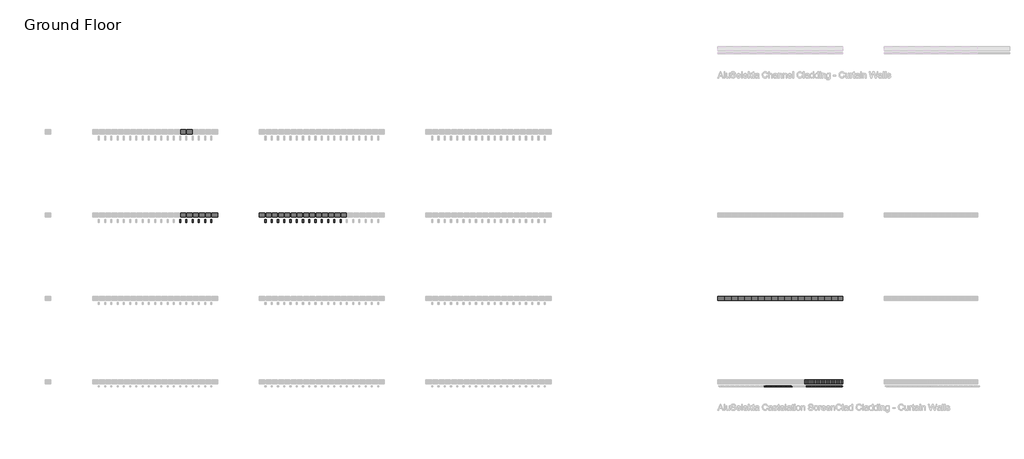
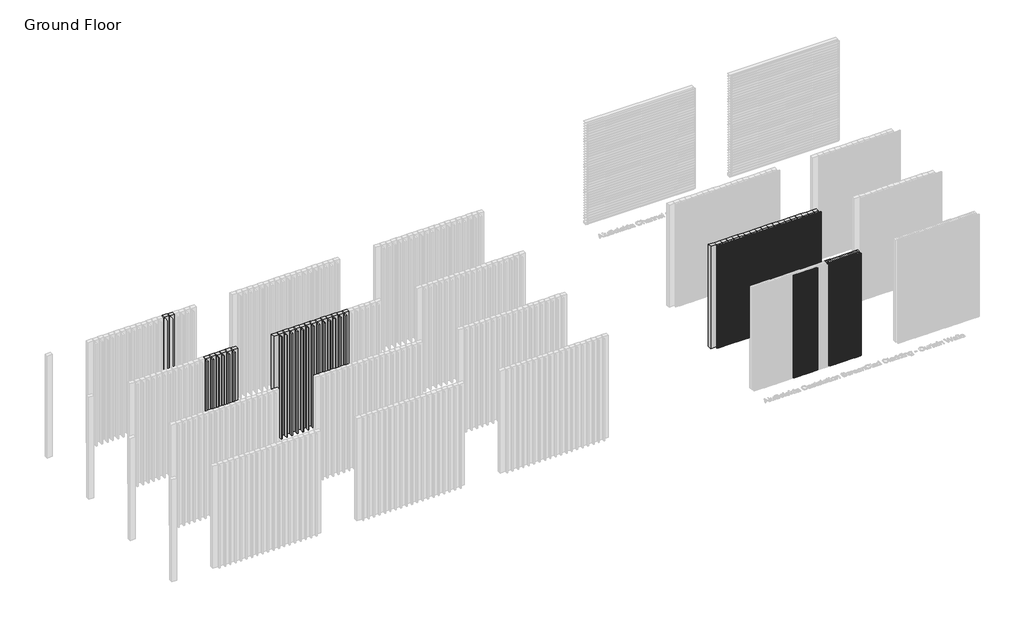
# One storey, part 8 of 350: 76 members, 64 plates.
"""IFC4 building model written with IfcOpenShell, lengths in millimetres."""

from ifc_helpers import new_model, si_unit, origin, place, context, project, spatial, transform, mapped, element, save
from components import rectangular_mullion_4c3290df, rectangular_mullion_b3f0cc74, rectangular_mullion_73ab8564, empty_system_panel_empty_db8e642d, empty_system_panel_empty_1b6afc67, empty_system_panel_empty_4d48d162, empty_system_panel_empty_086c6263, empty_system_panel_empty_a0fcacb3, empty_system_panel_empty_3b645525, empty_system_panel_empty_df7ddcff

model = new_model("IFC4")

# Units and contexts
model_context = context("Model", 3, world=origin())
ifc_project = project(units=[si_unit("LENGTHUNIT", "METRE", prefix="MILLI")], contexts=[model_context])

# Site, building, storey
site = spatial("IfcSite", under=ifc_project)
building = spatial("IfcBuilding", under=site)
storey = spatial("IfcBuildingStorey", under=building, Name="Ground Floor", Elevation=0.0)

# Members
placement = place(None, origin())
rectangular_mullion_shape = rectangular_mullion_4c3290df(model_context)
element("IfcMember", 1, ObjectType="Rectangular Mullion : Cladding_Aluminium_Modinex_AluSelekta_Castelation_ScreenClad_40_AfricanEbony", at=placement, inside=storey, context=model_context, shape_type="MappedRepresentation", body=[
    mapped(rectangular_mullion_shape, transform((31156.4361642, 4968.2978302, 0.0), x_axis=(1.0, 0.0, 0.0), y_axis=(0.0, -1.0, 0.0), z_axis=(0.0, 0.0, -1.0))),
])
element("IfcMember", 2, ObjectType="Rectangular Mullion : Cladding_Aluminium_Modinex_AluSelekta_Castelation_ScreenClad_40_AfricanEbony", at=placement, inside=storey, context=model_context, shape_type="MappedRepresentation", body=[
    mapped(rectangular_mullion_shape, transform((31196.4361642, 4968.2978302, 0.0), x_axis=(1.0, 0.0, 0.0), y_axis=(0.0, -1.0, 0.0), z_axis=(0.0, 0.0, -1.0))),
])
element("IfcMember", 3, ObjectType="Rectangular Mullion : Cladding_Aluminium_Modinex_AluSelekta_Castelation_ScreenClad_40_AfricanEbony", at=placement, inside=storey, context=model_context, shape_type="MappedRepresentation", body=[
    mapped(rectangular_mullion_shape, transform((31236.4361642, 4968.2978302, 0.0), x_axis=(1.0, 0.0, 0.0), y_axis=(0.0, -1.0, 0.0), z_axis=(0.0, 0.0, -1.0))),
])
element("IfcMember", 4, ObjectType="Rectangular Mullion : Cladding_Aluminium_Modinex_AluSelekta_Castelation_ScreenClad_40_AfricanEbony", at=placement, inside=storey, context=model_context, shape_type="MappedRepresentation", body=[
    mapped(rectangular_mullion_shape, transform((31276.4361642, 4968.2978302, 0.0), x_axis=(1.0, 0.0, 0.0), y_axis=(0.0, -1.0, 0.0), z_axis=(0.0, 0.0, -1.0))),
])
element("IfcMember", 5, ObjectType="Rectangular Mullion : Cladding_Aluminium_Modinex_AluSelekta_Castelation_ScreenClad_40_AfricanEbony", at=placement, inside=storey, context=model_context, shape_type="MappedRepresentation", body=[
    mapped(rectangular_mullion_shape, transform((31316.4361642, 4968.2978302, 0.0), x_axis=(1.0, 0.0, 0.0), y_axis=(0.0, -1.0, 0.0), z_axis=(0.0, 0.0, -1.0))),
])
element("IfcMember", 6, ObjectType="Rectangular Mullion : Cladding_Aluminium_Modinex_AluSelekta_Castelation_ScreenClad_40_AfricanEbony", at=placement, inside=storey, context=model_context, shape_type="MappedRepresentation", body=[
    mapped(rectangular_mullion_shape, transform((31356.4361642, 4968.2978302, 0.0), x_axis=(1.0, 0.0, 0.0), y_axis=(0.0, -1.0, 0.0), z_axis=(0.0, 0.0, -1.0))),
])
element("IfcMember", 7, ObjectType="Rectangular Mullion : Cladding_Aluminium_Modinex_AluSelekta_Castelation_ScreenClad_40_AfricanEbony", at=placement, inside=storey, context=model_context, shape_type="MappedRepresentation", body=[
    mapped(rectangular_mullion_shape, transform((31396.4361642, 4968.2978302, 0.0), x_axis=(1.0, 0.0, 0.0), y_axis=(0.0, -1.0, 0.0), z_axis=(0.0, 0.0, -1.0))),
])
element("IfcMember", 8, ObjectType="Rectangular Mullion : Cladding_Aluminium_Modinex_AluSelekta_Castelation_ScreenClad_40_AfricanEbony", at=placement, inside=storey, context=model_context, shape_type="MappedRepresentation", body=[
    mapped(rectangular_mullion_shape, transform((31436.4361642, 4968.2978302, 0.0), x_axis=(1.0, 0.0, 0.0), y_axis=(0.0, -1.0, 0.0), z_axis=(0.0, 0.0, -1.0))),
])
element("IfcMember", 9, ObjectType="Rectangular Mullion : Cladding_Aluminium_Modinex_AluSelekta_Castelation_ScreenClad_40_AfricanEbony", at=placement, inside=storey, context=model_context, shape_type="MappedRepresentation", body=[
    mapped(rectangular_mullion_shape, transform((31476.4361642, 4968.2978302, 0.0), x_axis=(1.0, 0.0, 0.0), y_axis=(0.0, -1.0, 0.0), z_axis=(0.0, 0.0, -1.0))),
])
element("IfcMember", 10, ObjectType="Rectangular Mullion : Cladding_Aluminium_Modinex_AluSelekta_Castelation_ScreenClad_40_AfricanEbony", at=placement, inside=storey, context=model_context, shape_type="MappedRepresentation", body=[
    mapped(rectangular_mullion_shape, transform((31516.4361642, 4968.2978302, 0.0), x_axis=(1.0, 0.0, 0.0), y_axis=(0.0, -1.0, 0.0), z_axis=(0.0, 0.0, -1.0))),
])
element("IfcMember", 11, ObjectType="Rectangular Mullion : Cladding_Aluminium_Modinex_AluSelekta_Castelation_ScreenClad_40_AfricanEbony", at=placement, inside=storey, context=model_context, shape_type="MappedRepresentation", body=[
    mapped(rectangular_mullion_shape, transform((31556.4361642, 4968.2978302, 0.0), x_axis=(1.0, 0.0, 0.0), y_axis=(0.0, -1.0, 0.0), z_axis=(0.0, 0.0, -1.0))),
])
element("IfcMember", 12, ObjectType="Rectangular Mullion : Cladding_Aluminium_Modinex_AluSelekta_Castelation_ScreenClad_40_AfricanEbony", at=placement, inside=storey, context=model_context, shape_type="MappedRepresentation", body=[
    mapped(rectangular_mullion_shape, transform((31596.4361642, 4968.2978302, 0.0), x_axis=(1.0, 0.0, 0.0), y_axis=(0.0, -1.0, 0.0), z_axis=(0.0, 0.0, -1.0))),
])
element("IfcMember", 13, ObjectType="Rectangular Mullion : Cladding_Aluminium_Modinex_AluSelekta_Castelation_ScreenClad_40_AfricanEbony", at=placement, inside=storey, context=model_context, shape_type="MappedRepresentation", body=[
    mapped(rectangular_mullion_shape, transform((31636.4361642, 4968.2978302, 0.0), x_axis=(1.0, 0.0, 0.0), y_axis=(0.0, -1.0, 0.0), z_axis=(0.0, 0.0, -1.0))),
])
element("IfcMember", 14, ObjectType="Rectangular Mullion : Cladding_Aluminium_Modinex_AluSelekta_Castelation_ScreenClad_40_AfricanEbony", at=placement, inside=storey, context=model_context, shape_type="MappedRepresentation", body=[
    mapped(rectangular_mullion_shape, transform((31676.4361642, 4968.2978302, 0.0), x_axis=(1.0, 0.0, 0.0), y_axis=(0.0, -1.0, 0.0), z_axis=(0.0, 0.0, -1.0))),
])
element("IfcMember", 15, ObjectType="Rectangular Mullion : Cladding_Aluminium_Modinex_AluSelekta_Castelation_ScreenClad_40_AfricanEbony", at=placement, inside=storey, context=model_context, shape_type="MappedRepresentation", body=[
    mapped(rectangular_mullion_shape, transform((31716.4361642, 4968.2978302, 0.0), x_axis=(1.0, 0.0, 0.0), y_axis=(0.0, -1.0, 0.0), z_axis=(0.0, 0.0, -1.0))),
])
element("IfcMember", 16, ObjectType="Rectangular Mullion : Cladding_Aluminium_Modinex_AluSelekta_Castelation_ScreenClad_40_AfricanEbony", at=placement, inside=storey, context=model_context, shape_type="MappedRepresentation", body=[
    mapped(rectangular_mullion_shape, transform((31756.4361642, 4968.2978302, 0.0), x_axis=(1.0, 0.0, 0.0), y_axis=(0.0, -1.0, 0.0), z_axis=(0.0, 0.0, -1.0))),
])
element("IfcMember", 17, ObjectType="Rectangular Mullion : Cladding_Aluminium_Modinex_AluSelekta_Castelation_ScreenClad_40_AfricanEbony", at=placement, inside=storey, context=model_context, shape_type="MappedRepresentation", body=[
    mapped(rectangular_mullion_shape, transform((31796.4361642, 4968.2978302, 0.0), x_axis=(1.0, 0.0, 0.0), y_axis=(0.0, -1.0, 0.0), z_axis=(0.0, 0.0, -1.0))),
])
element("IfcMember", 18, ObjectType="Rectangular Mullion : Cladding_Aluminium_Modinex_AluSelekta_Castelation_ScreenClad_40_AfricanEbony", at=placement, inside=storey, context=model_context, shape_type="MappedRepresentation", body=[
    mapped(rectangular_mullion_shape, transform((31836.4361642, 4968.2978302, 0.0), x_axis=(1.0, 0.0, 0.0), y_axis=(0.0, -1.0, 0.0), z_axis=(0.0, 0.0, -1.0))),
])
element("IfcMember", 19, ObjectType="Rectangular Mullion : Cladding_Aluminium_Modinex_AluSelekta_Castelation_ScreenClad_40_AfricanEbony", at=placement, inside=storey, context=model_context, shape_type="MappedRepresentation", body=[
    mapped(rectangular_mullion_shape, transform((31876.4361642, 4968.2978302, 0.0), x_axis=(1.0, 0.0, 0.0), y_axis=(0.0, -1.0, 0.0), z_axis=(0.0, 0.0, -1.0))),
])
element("IfcMember", 20, ObjectType="Rectangular Mullion : Cladding_Aluminium_Modinex_AluSelekta_Castelation_ScreenClad_40_AfricanEbony", at=placement, inside=storey, context=model_context, shape_type="MappedRepresentation", body=[
    mapped(rectangular_mullion_shape, transform((31116.4361642, 4968.2978302, 0.0), x_axis=(1.0, 0.0, 0.0), y_axis=(0.0, -1.0, 0.0), z_axis=(0.0, 0.0, -1.0))),
])
element("IfcMember", 21, ObjectType="Rectangular Mullion : Cladding_Aluminium_Modinex_AluSelekta_Castelation_ScreenClad_40_AfricanEbony", at=placement, inside=storey, context=model_context, shape_type="MappedRepresentation", body=[
    mapped(rectangular_mullion_shape, transform((31076.4361642, 4968.2978302, 0.0), x_axis=(1.0, 0.0, 0.0), y_axis=(0.0, -1.0, 0.0), z_axis=(0.0, 0.0, -1.0))),
])
element("IfcMember", 22, ObjectType="Rectangular Mullion : Cladding_Aluminium_Modinex_AluSelekta_Castelation_ScreenClad_40_AfricanEbony", at=placement, inside=storey, context=model_context, shape_type="MappedRepresentation", body=[
    mapped(rectangular_mullion_shape, transform((31036.4361642, 4968.2978302, 0.0), x_axis=(1.0, 0.0, 0.0), y_axis=(0.0, -1.0, 0.0), z_axis=(0.0, 0.0, -1.0))),
])
element("IfcMember", 23, ObjectType="Rectangular Mullion : Cladding_Aluminium_Modinex_AluSelekta_Castelation_ScreenClad_40_AfricanEbony", at=placement, inside=storey, context=model_context, shape_type="MappedRepresentation", body=[
    mapped(rectangular_mullion_shape, transform((30676.4361642, 4968.2978302, 0.0), x_axis=(1.0, 0.0, 0.0), y_axis=(0.0, -1.0, 0.0), z_axis=(0.0, 0.0, -1.0))),
])
element("IfcMember", 24, ObjectType="Rectangular Mullion : Cladding_Aluminium_Modinex_AluSelekta_Castelation_ScreenClad_40_AfricanEbony", at=placement, inside=storey, context=model_context, shape_type="MappedRepresentation", body=[
    mapped(rectangular_mullion_shape, transform((30636.4361642, 4968.2978302, 0.0), x_axis=(1.0, 0.0, 0.0), y_axis=(0.0, -1.0, 0.0), z_axis=(0.0, 0.0, -1.0))),
])
element("IfcMember", 25, ObjectType="Rectangular Mullion : Cladding_Aluminium_Modinex_AluSelekta_Castelation_ScreenClad_40_AfricanEbony", at=placement, inside=storey, context=model_context, shape_type="MappedRepresentation", body=[
    mapped(rectangular_mullion_shape, transform((30596.4361642, 4968.2978302, 0.0), x_axis=(1.0, 0.0, 0.0), y_axis=(0.0, -1.0, 0.0), z_axis=(0.0, 0.0, -1.0))),
])
element("IfcMember", 26, ObjectType="Rectangular Mullion : Cladding_Aluminium_Modinex_AluSelekta_Castelation_ScreenClad_40_AfricanEbony", at=placement, inside=storey, context=model_context, shape_type="MappedRepresentation", body=[
    mapped(rectangular_mullion_shape, transform((30556.4361642, 4968.2978302, 0.0), x_axis=(1.0, 0.0, 0.0), y_axis=(0.0, -1.0, 0.0), z_axis=(0.0, 0.0, -1.0))),
])
element("IfcMember", 27, ObjectType="Rectangular Mullion : Cladding_Aluminium_Modinex_AluSelekta_Castelation_ScreenClad_40_AfricanEbony", at=placement, inside=storey, context=model_context, shape_type="MappedRepresentation", body=[
    mapped(rectangular_mullion_shape, transform((30516.4361642, 4968.2978302, 0.0), x_axis=(1.0, 0.0, 0.0), y_axis=(0.0, -1.0, 0.0), z_axis=(0.0, 0.0, -1.0))),
])
element("IfcMember", 28, ObjectType="Rectangular Mullion : Cladding_Aluminium_Modinex_AluSelekta_Castelation_ScreenClad_40_AfricanEbony", at=placement, inside=storey, context=model_context, shape_type="MappedRepresentation", body=[
    mapped(rectangular_mullion_shape, transform((30476.4361642, 4968.2978302, 0.0), x_axis=(1.0, 0.0, 0.0), y_axis=(0.0, -1.0, 0.0), z_axis=(0.0, 0.0, -1.0))),
])
element("IfcMember", 29, ObjectType="Rectangular Mullion : Cladding_Aluminium_Modinex_AluSelekta_Castelation_ScreenClad_40_AfricanEbony", at=placement, inside=storey, context=model_context, shape_type="MappedRepresentation", body=[
    mapped(rectangular_mullion_shape, transform((30436.4361642, 4968.2978302, 0.0), x_axis=(1.0, 0.0, 0.0), y_axis=(0.0, -1.0, 0.0), z_axis=(0.0, 0.0, -1.0))),
])
element("IfcMember", 30, ObjectType="Rectangular Mullion : Cladding_Aluminium_Modinex_AluSelekta_Castelation_ScreenClad_40_AfricanEbony", at=placement, inside=storey, context=model_context, shape_type="MappedRepresentation", body=[
    mapped(rectangular_mullion_shape, transform((30396.4361642, 4968.2978302, 0.0), x_axis=(1.0, 0.0, 0.0), y_axis=(0.0, -1.0, 0.0), z_axis=(0.0, 0.0, -1.0))),
])
element("IfcMember", 31, ObjectType="Rectangular Mullion : Cladding_Aluminium_Modinex_AluSelekta_Castelation_ScreenClad_40_AfricanEbony", at=placement, inside=storey, context=model_context, shape_type="MappedRepresentation", body=[
    mapped(rectangular_mullion_shape, transform((30356.4361642, 4968.2978302, 0.0), x_axis=(1.0, 0.0, 0.0), y_axis=(0.0, -1.0, 0.0), z_axis=(0.0, 0.0, -1.0))),
])
element("IfcMember", 32, ObjectType="Rectangular Mullion : Cladding_Aluminium_Modinex_AluSelekta_Castelation_ScreenClad_40_AfricanEbony", at=placement, inside=storey, context=model_context, shape_type="MappedRepresentation", body=[
    mapped(rectangular_mullion_shape, transform((30316.4361642, 4968.2978302, 0.0), x_axis=(1.0, 0.0, 0.0), y_axis=(0.0, -1.0, 0.0), z_axis=(0.0, 0.0, -1.0))),
])
element("IfcMember", 33, ObjectType="Rectangular Mullion : Cladding_Aluminium_Modinex_AluSelekta_Castelation_ScreenClad_40_AfricanEbony", at=placement, inside=storey, context=model_context, shape_type="MappedRepresentation", body=[
    mapped(rectangular_mullion_shape, transform((30276.4361642, 4968.2978302, 0.0), x_axis=(1.0, 0.0, 0.0), y_axis=(0.0, -1.0, 0.0), z_axis=(0.0, 0.0, -1.0))),
])
element("IfcMember", 34, ObjectType="Rectangular Mullion : Cladding_Aluminium_Modinex_AluSelekta_Castelation_ScreenClad_40_AfricanEbony", at=placement, inside=storey, context=model_context, shape_type="MappedRepresentation", body=[
    mapped(rectangular_mullion_shape, transform((30236.4361642, 4968.2978302, 0.0), x_axis=(1.0, 0.0, 0.0), y_axis=(0.0, -1.0, 0.0), z_axis=(0.0, 0.0, -1.0))),
])
element("IfcMember", 35, ObjectType="Rectangular Mullion : Cladding_Aluminium_Modinex_AluSelekta_Castelation_ScreenClad_40_AfricanEbony", at=placement, inside=storey, context=model_context, shape_type="MappedRepresentation", body=[
    mapped(rectangular_mullion_shape, transform((30196.4361642, 4968.2978302, 0.0), x_axis=(1.0, 0.0, 0.0), y_axis=(0.0, -1.0, 0.0), z_axis=(0.0, 0.0, -1.0))),
])
element("IfcMember", 36, ObjectType="Rectangular Mullion : Cladding_Aluminium_Modinex_AluSelekta_Castelation_ScreenClad_40_AfricanEbony", at=placement, inside=storey, context=model_context, shape_type="MappedRepresentation", body=[
    mapped(rectangular_mullion_shape, transform((30156.4361642, 4968.2978302, 0.0), x_axis=(1.0, 0.0, 0.0), y_axis=(0.0, -1.0, 0.0), z_axis=(0.0, 0.0, -1.0))),
])
element("IfcMember", 37, ObjectType="Rectangular Mullion : Cladding_Aluminium_Modinex_AluSelekta_Castelation_ScreenClad_40_AfricanEbony", at=placement, inside=storey, context=model_context, shape_type="MappedRepresentation", body=[
    mapped(rectangular_mullion_shape, transform((30116.4361642, 4968.2978302, 0.0), x_axis=(1.0, 0.0, 0.0), y_axis=(0.0, -1.0, 0.0), z_axis=(0.0, 0.0, -1.0))),
])
element("IfcMember", 38, ObjectType="Rectangular Mullion : Cladding_Aluminium_Modinex_AluSelekta_Castelation_ScreenClad_40_AfricanEbony", at=placement, inside=storey, context=model_context, shape_type="MappedRepresentation", body=[
    mapped(rectangular_mullion_shape, transform((30076.4361642, 4968.2978302, 0.0), x_axis=(1.0, 0.0, 0.0), y_axis=(0.0, -1.0, 0.0), z_axis=(0.0, 0.0, -1.0))),
])
element("IfcMember", 39, ObjectType="Rectangular Mullion : Cladding_Aluminium_Modinex_AluSelekta_Castelation_ScreenClad_40_AfricanEbony", at=placement, inside=storey, context=model_context, shape_type="MappedRepresentation", body=[
    mapped(rectangular_mullion_shape, transform((30036.4361642, 4968.2978302, 0.0), x_axis=(1.0, 0.0, 0.0), y_axis=(0.0, -1.0, 0.0), z_axis=(0.0, 0.0, -1.0))),
])
rectangular_mullion_2_shape = rectangular_mullion_b3f0cc74(model_context)
element("IfcMember", 40, ObjectType="Rectangular Mullion : Batten_Aluminium_Modinex_AluBatten_25x75_SpottedGum", at=placement, inside=storey, context=model_context, shape_type="MappedRepresentation", body=[
    mapped(rectangular_mullion_2_shape, transform((16016.4361642, 8968.2978302, 0.0), x_axis=(1.0, 0.0, 0.0), y_axis=(0.0, -1.0, 0.0), z_axis=(0.0, 0.0, -1.0))),
])
element("IfcMember", 41, ObjectType="Rectangular Mullion : Batten_Aluminium_Modinex_AluBatten_25x75_SpottedGum", at=placement, inside=storey, context=model_context, shape_type="MappedRepresentation", body=[
    mapped(rectangular_mullion_2_shape, transform((16166.4361642, 8968.2978302, 0.0), x_axis=(1.0, 0.0, 0.0), y_axis=(0.0, -1.0, 0.0), z_axis=(0.0, 0.0, -1.0))),
])
element("IfcMember", 42, ObjectType="Rectangular Mullion : Batten_Aluminium_Modinex_AluBatten_25x75_SpottedGum", at=placement, inside=storey, context=model_context, shape_type="MappedRepresentation", body=[
    mapped(rectangular_mullion_2_shape, transform((16316.4361642, 8968.2978302, 0.0), x_axis=(1.0, 0.0, 0.0), y_axis=(0.0, -1.0, 0.0), z_axis=(0.0, 0.0, -1.0))),
])
element("IfcMember", 43, ObjectType="Rectangular Mullion : Batten_Aluminium_Modinex_AluBatten_25x75_SpottedGum", at=placement, inside=storey, context=model_context, shape_type="MappedRepresentation", body=[
    mapped(rectangular_mullion_2_shape, transform((16466.4361642, 8968.2978302, 0.0), x_axis=(1.0, 0.0, 0.0), y_axis=(0.0, -1.0, 0.0), z_axis=(0.0, 0.0, -1.0))),
])
element("IfcMember", 44, ObjectType="Rectangular Mullion : Batten_Aluminium_Modinex_AluBatten_25x75_SpottedGum", at=placement, inside=storey, context=model_context, shape_type="MappedRepresentation", body=[
    mapped(rectangular_mullion_2_shape, transform((16616.4361642, 8968.2978302, 0.0), x_axis=(1.0, 0.0, 0.0), y_axis=(0.0, -1.0, 0.0), z_axis=(0.0, 0.0, -1.0))),
])
element("IfcMember", 45, ObjectType="Rectangular Mullion : Batten_Aluminium_Modinex_AluBatten_25x75_SpottedGum", at=placement, inside=storey, context=model_context, shape_type="MappedRepresentation", body=[
    mapped(rectangular_mullion_2_shape, transform((16766.4361642, 8968.2978302, 0.0), x_axis=(1.0, 0.0, 0.0), y_axis=(0.0, -1.0, 0.0), z_axis=(0.0, 0.0, -1.0))),
])
element("IfcMember", 46, ObjectType="Rectangular Mullion : Batten_Aluminium_Modinex_AluBatten_25x75_TasmanianOak", at=placement, inside=storey, context=model_context, shape_type="MappedRepresentation", body=[
    mapped(rectangular_mullion_2_shape, transform((18066.4361642, 8968.2978302, 0.0), x_axis=(1.0, 0.0, 0.0), y_axis=(0.0, -1.0, 0.0), z_axis=(0.0, 0.0, -1.0))),
])
element("IfcMember", 47, ObjectType="Rectangular Mullion : Batten_Aluminium_Modinex_AluBatten_25x75_TasmanianOak", at=placement, inside=storey, context=model_context, shape_type="MappedRepresentation", body=[
    mapped(rectangular_mullion_2_shape, transform((18216.4361642, 8968.2978302, 0.0), x_axis=(1.0, 0.0, 0.0), y_axis=(0.0, -1.0, 0.0), z_axis=(0.0, 0.0, -1.0))),
])
element("IfcMember", 48, ObjectType="Rectangular Mullion : Batten_Aluminium_Modinex_AluBatten_25x75_TasmanianOak", at=placement, inside=storey, context=model_context, shape_type="MappedRepresentation", body=[
    mapped(rectangular_mullion_2_shape, transform((18366.4361642, 8968.2978302, 0.0), x_axis=(1.0, 0.0, 0.0), y_axis=(0.0, -1.0, 0.0), z_axis=(0.0, 0.0, -1.0))),
])
element("IfcMember", 49, ObjectType="Rectangular Mullion : Batten_Aluminium_Modinex_AluBatten_25x75_TasmanianOak", at=placement, inside=storey, context=model_context, shape_type="MappedRepresentation", body=[
    mapped(rectangular_mullion_2_shape, transform((18516.4361642, 8968.2978302, 0.0), x_axis=(1.0, 0.0, 0.0), y_axis=(0.0, -1.0, 0.0), z_axis=(0.0, 0.0, -1.0))),
])
element("IfcMember", 50, ObjectType="Rectangular Mullion : Batten_Aluminium_Modinex_AluBatten_25x75_TasmanianOak", at=placement, inside=storey, context=model_context, shape_type="MappedRepresentation", body=[
    mapped(rectangular_mullion_2_shape, transform((18666.4361642, 8968.2978302, 0.0), x_axis=(1.0, 0.0, 0.0), y_axis=(0.0, -1.0, 0.0), z_axis=(0.0, 0.0, -1.0))),
])
element("IfcMember", 51, ObjectType="Rectangular Mullion : Batten_Aluminium_Modinex_AluBatten_25x75_TasmanianOak", at=placement, inside=storey, context=model_context, shape_type="MappedRepresentation", body=[
    mapped(rectangular_mullion_2_shape, transform((18816.4361642, 8968.2978302, 0.0), x_axis=(1.0, 0.0, 0.0), y_axis=(0.0, -1.0, 0.0), z_axis=(0.0, 0.0, -1.0))),
])
element("IfcMember", 52, ObjectType="Rectangular Mullion : Batten_Aluminium_Modinex_AluBatten_25x75_TasmanianOak", at=placement, inside=storey, context=model_context, shape_type="MappedRepresentation", body=[
    mapped(rectangular_mullion_2_shape, transform((18966.4361642, 8968.2978302, 0.0), x_axis=(1.0, 0.0, 0.0), y_axis=(0.0, -1.0, 0.0), z_axis=(0.0, 0.0, -1.0))),
])
element("IfcMember", 53, ObjectType="Rectangular Mullion : Batten_Aluminium_Modinex_AluBatten_25x75_TasmanianOak", at=placement, inside=storey, context=model_context, shape_type="MappedRepresentation", body=[
    mapped(rectangular_mullion_2_shape, transform((19116.4361642, 8968.2978302, 0.0), x_axis=(1.0, 0.0, 0.0), y_axis=(0.0, -1.0, 0.0), z_axis=(0.0, 0.0, -1.0))),
])
element("IfcMember", 54, ObjectType="Rectangular Mullion : Batten_Aluminium_Modinex_AluBatten_25x75_TasmanianOak", at=placement, inside=storey, context=model_context, shape_type="MappedRepresentation", body=[
    mapped(rectangular_mullion_2_shape, transform((19266.4361642, 8968.2978302, 0.0), x_axis=(1.0, 0.0, 0.0), y_axis=(0.0, -1.0, 0.0), z_axis=(0.0, 0.0, -1.0))),
])
element("IfcMember", 55, ObjectType="Rectangular Mullion : Batten_Aluminium_Modinex_AluBatten_25x75_TasmanianOak", at=placement, inside=storey, context=model_context, shape_type="MappedRepresentation", body=[
    mapped(rectangular_mullion_2_shape, transform((19416.4361642, 8968.2978302, 0.0), x_axis=(1.0, 0.0, 0.0), y_axis=(0.0, -1.0, 0.0), z_axis=(0.0, 0.0, -1.0))),
])
element("IfcMember", 56, ObjectType="Rectangular Mullion : Batten_Aluminium_Modinex_AluBatten_25x75_TasmanianOak", at=placement, inside=storey, context=model_context, shape_type="MappedRepresentation", body=[
    mapped(rectangular_mullion_2_shape, transform((19566.4361642, 8968.2978302, 0.0), x_axis=(1.0, 0.0, 0.0), y_axis=(0.0, -1.0, 0.0), z_axis=(0.0, 0.0, -1.0))),
])
element("IfcMember", 57, ObjectType="Rectangular Mullion : Batten_Aluminium_Modinex_AluBatten_25x75_TasmanianOak", at=placement, inside=storey, context=model_context, shape_type="MappedRepresentation", body=[
    mapped(rectangular_mullion_2_shape, transform((19716.4361642, 8968.2978302, 0.0), x_axis=(1.0, 0.0, 0.0), y_axis=(0.0, -1.0, 0.0), z_axis=(0.0, 0.0, -1.0))),
])
element("IfcMember", 58, ObjectType="Rectangular Mullion : Batten_Aluminium_Modinex_AluBatten_25x75_TasmanianOak", at=placement, inside=storey, context=model_context, shape_type="MappedRepresentation", body=[
    mapped(rectangular_mullion_2_shape, transform((19866.4361642, 8968.2978302, 0.0), x_axis=(1.0, 0.0, 0.0), y_axis=(0.0, -1.0, 0.0), z_axis=(0.0, 0.0, -1.0))),
])
rectangular_mullion_3_shape = rectangular_mullion_73ab8564(model_context)
element("IfcMember", 59, ObjectType="Rectangular Mullion : Cladding_Aluminium_Modinex_AluSelekta_Castelation_ScreenClad_160_AfricanEbony", at=placement, inside=storey, context=model_context, shape_type="MappedRepresentation", body=[
    mapped(rectangular_mullion_3_shape, transform((29076.4361642, 6968.2978302, 0.0), x_axis=(1.0, 0.0, 0.0), y_axis=(0.0, -1.0, 0.0), z_axis=(0.0, 0.0, -1.0))),
])
element("IfcMember", 60, ObjectType="Rectangular Mullion : Cladding_Aluminium_Modinex_AluSelekta_Castelation_ScreenClad_160_AfricanEbony", at=placement, inside=storey, context=model_context, shape_type="MappedRepresentation", body=[
    mapped(rectangular_mullion_3_shape, transform((29236.4361642, 6968.2978302, 0.0), x_axis=(1.0, 0.0, 0.0), y_axis=(0.0, -1.0, 0.0), z_axis=(0.0, 0.0, -1.0))),
])
element("IfcMember", 61, ObjectType="Rectangular Mullion : Cladding_Aluminium_Modinex_AluSelekta_Castelation_ScreenClad_160_AfricanEbony", at=placement, inside=storey, context=model_context, shape_type="MappedRepresentation", body=[
    mapped(rectangular_mullion_3_shape, transform((29396.4361642, 6968.2978302, 0.0), x_axis=(1.0, 0.0, 0.0), y_axis=(0.0, -1.0, 0.0), z_axis=(0.0, 0.0, -1.0))),
])
element("IfcMember", 62, ObjectType="Rectangular Mullion : Cladding_Aluminium_Modinex_AluSelekta_Castelation_ScreenClad_160_AfricanEbony", at=placement, inside=storey, context=model_context, shape_type="MappedRepresentation", body=[
    mapped(rectangular_mullion_3_shape, transform((29556.4361642, 6968.2978302, 0.0), x_axis=(1.0, 0.0, 0.0), y_axis=(0.0, -1.0, 0.0), z_axis=(0.0, 0.0, -1.0))),
])
element("IfcMember", 63, ObjectType="Rectangular Mullion : Cladding_Aluminium_Modinex_AluSelekta_Castelation_ScreenClad_160_AfricanEbony", at=placement, inside=storey, context=model_context, shape_type="MappedRepresentation", body=[
    mapped(rectangular_mullion_3_shape, transform((29716.4361642, 6968.2978302, 0.0), x_axis=(1.0, 0.0, 0.0), y_axis=(0.0, -1.0, 0.0), z_axis=(0.0, 0.0, -1.0))),
])
element("IfcMember", 64, ObjectType="Rectangular Mullion : Cladding_Aluminium_Modinex_AluSelekta_Castelation_ScreenClad_160_AfricanEbony", at=placement, inside=storey, context=model_context, shape_type="MappedRepresentation", body=[
    mapped(rectangular_mullion_3_shape, transform((29876.4361642, 6968.2978302, 0.0), x_axis=(1.0, 0.0, 0.0), y_axis=(0.0, -1.0, 0.0), z_axis=(0.0, 0.0, -1.0))),
])
element("IfcMember", 65, ObjectType="Rectangular Mullion : Cladding_Aluminium_Modinex_AluSelekta_Castelation_ScreenClad_160_AfricanEbony", at=placement, inside=storey, context=model_context, shape_type="MappedRepresentation", body=[
    mapped(rectangular_mullion_3_shape, transform((30036.4361642, 6968.2978302, 0.0), x_axis=(1.0, 0.0, 0.0), y_axis=(0.0, -1.0, 0.0), z_axis=(0.0, 0.0, -1.0))),
])
element("IfcMember", 66, ObjectType="Rectangular Mullion : Cladding_Aluminium_Modinex_AluSelekta_Castelation_ScreenClad_160_AfricanEbony", at=placement, inside=storey, context=model_context, shape_type="MappedRepresentation", body=[
    mapped(rectangular_mullion_3_shape, transform((30196.4361642, 6968.2978302, 0.0), x_axis=(1.0, 0.0, 0.0), y_axis=(0.0, -1.0, 0.0), z_axis=(0.0, 0.0, -1.0))),
])
element("IfcMember", 67, ObjectType="Rectangular Mullion : Cladding_Aluminium_Modinex_AluSelekta_Castelation_ScreenClad_160_AfricanEbony", at=placement, inside=storey, context=model_context, shape_type="MappedRepresentation", body=[
    mapped(rectangular_mullion_3_shape, transform((30356.4361642, 6968.2978302, 0.0), x_axis=(1.0, 0.0, 0.0), y_axis=(0.0, -1.0, 0.0), z_axis=(0.0, 0.0, -1.0))),
])
element("IfcMember", 68, ObjectType="Rectangular Mullion : Cladding_Aluminium_Modinex_AluSelekta_Castelation_ScreenClad_160_AfricanEbony", at=placement, inside=storey, context=model_context, shape_type="MappedRepresentation", body=[
    mapped(rectangular_mullion_3_shape, transform((30516.4361642, 6968.2978302, 0.0), x_axis=(1.0, 0.0, 0.0), y_axis=(0.0, -1.0, 0.0), z_axis=(0.0, 0.0, -1.0))),
])
element("IfcMember", 69, ObjectType="Rectangular Mullion : Cladding_Aluminium_Modinex_AluSelekta_Castelation_ScreenClad_160_AfricanEbony", at=placement, inside=storey, context=model_context, shape_type="MappedRepresentation", body=[
    mapped(rectangular_mullion_3_shape, transform((30676.4361642, 6968.2978302, 0.0), x_axis=(1.0, 0.0, 0.0), y_axis=(0.0, -1.0, 0.0), z_axis=(0.0, 0.0, -1.0))),
])
element("IfcMember", 70, ObjectType="Rectangular Mullion : Cladding_Aluminium_Modinex_AluSelekta_Castelation_ScreenClad_160_AfricanEbony", at=placement, inside=storey, context=model_context, shape_type="MappedRepresentation", body=[
    mapped(rectangular_mullion_3_shape, transform((30836.4361642, 6968.2978302, 0.0), x_axis=(1.0, 0.0, 0.0), y_axis=(0.0, -1.0, 0.0), z_axis=(0.0, 0.0, -1.0))),
])
element("IfcMember", 71, ObjectType="Rectangular Mullion : Cladding_Aluminium_Modinex_AluSelekta_Castelation_ScreenClad_160_AfricanEbony", at=placement, inside=storey, context=model_context, shape_type="MappedRepresentation", body=[
    mapped(rectangular_mullion_3_shape, transform((30996.4361642, 6968.2978302, 0.0), x_axis=(1.0, 0.0, 0.0), y_axis=(0.0, -1.0, 0.0), z_axis=(0.0, 0.0, -1.0))),
])
element("IfcMember", 72, ObjectType="Rectangular Mullion : Cladding_Aluminium_Modinex_AluSelekta_Castelation_ScreenClad_160_AfricanEbony", at=placement, inside=storey, context=model_context, shape_type="MappedRepresentation", body=[
    mapped(rectangular_mullion_3_shape, transform((31156.4361642, 6968.2978302, 0.0), x_axis=(1.0, 0.0, 0.0), y_axis=(0.0, -1.0, 0.0), z_axis=(0.0, 0.0, -1.0))),
])
element("IfcMember", 73, ObjectType="Rectangular Mullion : Cladding_Aluminium_Modinex_AluSelekta_Castelation_ScreenClad_160_AfricanEbony", at=placement, inside=storey, context=model_context, shape_type="MappedRepresentation", body=[
    mapped(rectangular_mullion_3_shape, transform((31316.4361642, 6968.2978302, 0.0), x_axis=(1.0, 0.0, 0.0), y_axis=(0.0, -1.0, 0.0), z_axis=(0.0, 0.0, -1.0))),
])
element("IfcMember", 74, ObjectType="Rectangular Mullion : Cladding_Aluminium_Modinex_AluSelekta_Castelation_ScreenClad_160_AfricanEbony", at=placement, inside=storey, context=model_context, shape_type="MappedRepresentation", body=[
    mapped(rectangular_mullion_3_shape, transform((31476.4361642, 6968.2978302, 0.0), x_axis=(1.0, 0.0, 0.0), y_axis=(0.0, -1.0, 0.0), z_axis=(0.0, 0.0, -1.0))),
])
element("IfcMember", 75, ObjectType="Rectangular Mullion : Cladding_Aluminium_Modinex_AluSelekta_Castelation_ScreenClad_160_AfricanEbony", at=placement, inside=storey, context=model_context, shape_type="MappedRepresentation", body=[
    mapped(rectangular_mullion_3_shape, transform((31636.4361642, 6968.2978302, 0.0), x_axis=(1.0, 0.0, 0.0), y_axis=(0.0, -1.0, 0.0), z_axis=(0.0, 0.0, -1.0))),
])
element("IfcMember", 76, ObjectType="Rectangular Mullion : Cladding_Aluminium_Modinex_AluSelekta_Castelation_ScreenClad_160_AfricanEbony", at=placement, inside=storey, context=model_context, shape_type="MappedRepresentation", body=[
    mapped(rectangular_mullion_3_shape, transform((31796.4361642, 6968.2978302, 0.0), x_axis=(1.0, 0.0, 0.0), y_axis=(0.0, -1.0, 0.0), z_axis=(0.0, 0.0, -1.0))),
])

# Plates
empty_system_panel_empty_shape = empty_system_panel_empty_db8e642d(model_context)
element("IfcPlate", 77, ObjectType="Empty System Panel : Empty", at=placement, inside=storey, context=model_context, shape_type="MappedRepresentation", body=[
    mapped(empty_system_panel_empty_shape, transform((17985.1861641, 8968.2978302, 0.0), x_axis=(1.0, 0.0, 0.0), y_axis=(0.0, 1.0, 0.0), z_axis=(0.0, 0.0, 1.0))),
])
empty_system_panel_empty_2_shape = empty_system_panel_empty_1b6afc67(model_context)
element("IfcPlate", 78, ObjectType="Empty System Panel : Empty", at=placement, inside=storey, context=model_context, shape_type="MappedRepresentation", body=[
    mapped(empty_system_panel_empty_2_shape, transform((16091.4361642, 8968.2978302, 0.0), x_axis=(1.0, 0.0, 0.0), y_axis=(0.0, 1.0, 0.0), z_axis=(0.0, 0.0, 1.0))),
])
element("IfcPlate", 79, ObjectType="Empty System Panel : Empty", at=placement, inside=storey, context=model_context, shape_type="MappedRepresentation", body=[
    mapped(empty_system_panel_empty_2_shape, transform((16241.4361642, 8968.2978302, 0.0), x_axis=(1.0, 0.0, 0.0), y_axis=(0.0, 1.0, 0.0), z_axis=(0.0, 0.0, 1.0))),
])
element("IfcPlate", 80, ObjectType="Empty System Panel : Empty", at=placement, inside=storey, context=model_context, shape_type="MappedRepresentation", body=[
    mapped(empty_system_panel_empty_2_shape, transform((16391.4361642, 8968.2978302, 0.0), x_axis=(1.0, 0.0, 0.0), y_axis=(0.0, 1.0, 0.0), z_axis=(0.0, 0.0, 1.0))),
])
element("IfcPlate", 81, ObjectType="Empty System Panel : Empty", at=placement, inside=storey, context=model_context, shape_type="MappedRepresentation", body=[
    mapped(empty_system_panel_empty_2_shape, transform((16541.4361642, 8968.2978302, 0.0), x_axis=(1.0, 0.0, 0.0), y_axis=(0.0, 1.0, 0.0), z_axis=(0.0, 0.0, 1.0))),
])
element("IfcPlate", 82, ObjectType="Empty System Panel : Empty", at=placement, inside=storey, context=model_context, shape_type="MappedRepresentation", body=[
    mapped(empty_system_panel_empty_2_shape, transform((16691.4361642, 8968.2978302, 0.0), x_axis=(1.0, 0.0, 0.0), y_axis=(0.0, 1.0, 0.0), z_axis=(0.0, 0.0, 1.0))),
])
element("IfcPlate", 83, ObjectType="Empty System Panel : Empty", at=placement, inside=storey, context=model_context, shape_type="MappedRepresentation", body=[
    mapped(empty_system_panel_empty_2_shape, transform((18141.4361642, 8968.2978302, 0.0), x_axis=(1.0, 0.0, 0.0), y_axis=(0.0, 1.0, 0.0), z_axis=(0.0, 0.0, 1.0))),
])
element("IfcPlate", 84, ObjectType="Empty System Panel : Empty", at=placement, inside=storey, context=model_context, shape_type="MappedRepresentation", body=[
    mapped(empty_system_panel_empty_2_shape, transform((18291.4361642, 8968.2978302, 0.0), x_axis=(1.0, 0.0, 0.0), y_axis=(0.0, 1.0, 0.0), z_axis=(0.0, 0.0, 1.0))),
])
element("IfcPlate", 85, ObjectType="Empty System Panel : Empty", at=placement, inside=storey, context=model_context, shape_type="MappedRepresentation", body=[
    mapped(empty_system_panel_empty_2_shape, transform((18441.4361642, 8968.2978302, 0.0), x_axis=(1.0, 0.0, 0.0), y_axis=(0.0, 1.0, 0.0), z_axis=(0.0, 0.0, 1.0))),
])
element("IfcPlate", 86, ObjectType="Empty System Panel : Empty", at=placement, inside=storey, context=model_context, shape_type="MappedRepresentation", body=[
    mapped(empty_system_panel_empty_2_shape, transform((18591.4361642, 8968.2978302, 0.0), x_axis=(1.0, 0.0, 0.0), y_axis=(0.0, 1.0, 0.0), z_axis=(0.0, 0.0, 1.0))),
])
element("IfcPlate", 87, ObjectType="Empty System Panel : Empty", at=placement, inside=storey, context=model_context, shape_type="MappedRepresentation", body=[
    mapped(empty_system_panel_empty_2_shape, transform((18741.4361642, 8968.2978302, 0.0), x_axis=(1.0, 0.0, 0.0), y_axis=(0.0, 1.0, 0.0), z_axis=(0.0, 0.0, 1.0))),
])
element("IfcPlate", 88, ObjectType="Empty System Panel : Empty", at=placement, inside=storey, context=model_context, shape_type="MappedRepresentation", body=[
    mapped(empty_system_panel_empty_2_shape, transform((18891.4361642, 8968.2978302, 0.0), x_axis=(1.0, 0.0, 0.0), y_axis=(0.0, 1.0, 0.0), z_axis=(0.0, 0.0, 1.0))),
])
element("IfcPlate", 89, ObjectType="Empty System Panel : Empty", at=placement, inside=storey, context=model_context, shape_type="MappedRepresentation", body=[
    mapped(empty_system_panel_empty_2_shape, transform((19041.4361642, 8968.2978302, 0.0), x_axis=(1.0, 0.0, 0.0), y_axis=(0.0, 1.0, 0.0), z_axis=(0.0, 0.0, 1.0))),
])
element("IfcPlate", 90, ObjectType="Empty System Panel : Empty", at=placement, inside=storey, context=model_context, shape_type="MappedRepresentation", body=[
    mapped(empty_system_panel_empty_2_shape, transform((19191.4361642, 8968.2978302, 0.0), x_axis=(1.0, 0.0, 0.0), y_axis=(0.0, 1.0, 0.0), z_axis=(0.0, 0.0, 1.0))),
])
element("IfcPlate", 91, ObjectType="Empty System Panel : Empty", at=placement, inside=storey, context=model_context, shape_type="MappedRepresentation", body=[
    mapped(empty_system_panel_empty_2_shape, transform((19341.4361642, 8968.2978302, 0.0), x_axis=(1.0, 0.0, 0.0), y_axis=(0.0, 1.0, 0.0), z_axis=(0.0, 0.0, 1.0))),
])
element("IfcPlate", 92, ObjectType="Empty System Panel : Empty", at=placement, inside=storey, context=model_context, shape_type="MappedRepresentation", body=[
    mapped(empty_system_panel_empty_2_shape, transform((19491.4361642, 8968.2978302, 0.0), x_axis=(1.0, 0.0, 0.0), y_axis=(0.0, 1.0, 0.0), z_axis=(0.0, 0.0, 1.0))),
])
element("IfcPlate", 93, ObjectType="Empty System Panel : Empty", at=placement, inside=storey, context=model_context, shape_type="MappedRepresentation", body=[
    mapped(empty_system_panel_empty_2_shape, transform((19641.4361642, 8968.2978302, 0.0), x_axis=(1.0, 0.0, 0.0), y_axis=(0.0, 1.0, 0.0), z_axis=(0.0, 0.0, 1.0))),
])
element("IfcPlate", 94, ObjectType="Empty System Panel : Empty", at=placement, inside=storey, context=model_context, shape_type="MappedRepresentation", body=[
    mapped(empty_system_panel_empty_2_shape, transform((19791.4361642, 8968.2978302, 0.0), x_axis=(1.0, 0.0, 0.0), y_axis=(0.0, 1.0, 0.0), z_axis=(0.0, 0.0, 1.0))),
])
element("IfcPlate", 95, ObjectType="Empty System Panel : Empty", at=placement, inside=storey, context=model_context, shape_type="MappedRepresentation", body=[
    mapped(empty_system_panel_empty_2_shape, transform((19941.4361642, 8968.2978302, 0.0), x_axis=(1.0, 0.0, 0.0), y_axis=(0.0, 1.0, 0.0), z_axis=(0.0, 0.0, 1.0))),
])
element("IfcPlate", 96, ObjectType="Empty System Panel : Empty", at=placement, inside=storey, context=model_context, shape_type="MappedRepresentation", body=[
    mapped(empty_system_panel_empty_2_shape, transform((16091.4361642, 10968.2978302, 0.0), x_axis=(1.0, 0.0, 0.0), y_axis=(0.0, 1.0, 0.0), z_axis=(0.0, 0.0, 1.0))),
])
element("IfcPlate", 97, ObjectType="Empty System Panel : Empty", at=placement, inside=storey, context=model_context, shape_type="MappedRepresentation", body=[
    mapped(empty_system_panel_empty_2_shape, transform((16241.4361642, 10968.2978302, 0.0), x_axis=(1.0, 0.0, 0.0), y_axis=(0.0, 1.0, 0.0), z_axis=(0.0, 0.0, 1.0))),
])
empty_system_panel_empty_3_shape = empty_system_panel_empty_4d48d162(model_context)
element("IfcPlate", 98, ObjectType="Empty System Panel : Empty", at=placement, inside=storey, context=model_context, shape_type="MappedRepresentation", body=[
    mapped(empty_system_panel_empty_3_shape, transform((16847.6861641, 8968.2978302, 0.0), x_axis=(1.0, 0.0, 0.0), y_axis=(0.0, 1.0, 0.0), z_axis=(0.0, 0.0, 1.0))),
])
empty_system_panel_empty_4_shape = empty_system_panel_empty_086c6263(model_context)
element("IfcPlate", 99, ObjectType="Empty System Panel : Empty", at=placement, inside=storey, context=model_context, shape_type="MappedRepresentation", body=[
    mapped(empty_system_panel_empty_4_shape, transform((31176.4361642, 4968.2978302, 0.0), x_axis=(1.0, 0.0, 0.0), y_axis=(0.0, 1.0, 0.0), z_axis=(0.0, 0.0, 1.0))),
])
element("IfcPlate", 100, ObjectType="Empty System Panel : Empty", at=placement, inside=storey, context=model_context, shape_type="MappedRepresentation", body=[
    mapped(empty_system_panel_empty_4_shape, transform((31216.4361642, 4968.2978302, 0.0), x_axis=(1.0, 0.0, 0.0), y_axis=(0.0, 1.0, 0.0), z_axis=(0.0, 0.0, 1.0))),
])
element("IfcPlate", 101, ObjectType="Empty System Panel : Empty", at=placement, inside=storey, context=model_context, shape_type="MappedRepresentation", body=[
    mapped(empty_system_panel_empty_4_shape, transform((31256.4361642, 4968.2978302, 0.0), x_axis=(1.0, 0.0, 0.0), y_axis=(0.0, 1.0, 0.0), z_axis=(0.0, 0.0, 1.0))),
])
element("IfcPlate", 102, ObjectType="Empty System Panel : Empty", at=placement, inside=storey, context=model_context, shape_type="MappedRepresentation", body=[
    mapped(empty_system_panel_empty_4_shape, transform((31296.4361642, 4968.2978302, 0.0), x_axis=(1.0, 0.0, 0.0), y_axis=(0.0, 1.0, 0.0), z_axis=(0.0, 0.0, 1.0))),
])
element("IfcPlate", 103, ObjectType="Empty System Panel : Empty", at=placement, inside=storey, context=model_context, shape_type="MappedRepresentation", body=[
    mapped(empty_system_panel_empty_4_shape, transform((31336.4361642, 4968.2978302, 0.0), x_axis=(1.0, 0.0, 0.0), y_axis=(0.0, 1.0, 0.0), z_axis=(0.0, 0.0, 1.0))),
])
element("IfcPlate", 104, ObjectType="Empty System Panel : Empty", at=placement, inside=storey, context=model_context, shape_type="MappedRepresentation", body=[
    mapped(empty_system_panel_empty_4_shape, transform((31376.4361642, 4968.2978302, 0.0), x_axis=(1.0, 0.0, 0.0), y_axis=(0.0, 1.0, 0.0), z_axis=(0.0, 0.0, 1.0))),
])
element("IfcPlate", 105, ObjectType="Empty System Panel : Empty", at=placement, inside=storey, context=model_context, shape_type="MappedRepresentation", body=[
    mapped(empty_system_panel_empty_4_shape, transform((31416.4361642, 4968.2978302, 0.0), x_axis=(1.0, 0.0, 0.0), y_axis=(0.0, 1.0, 0.0), z_axis=(0.0, 0.0, 1.0))),
])
element("IfcPlate", 106, ObjectType="Empty System Panel : Empty", at=placement, inside=storey, context=model_context, shape_type="MappedRepresentation", body=[
    mapped(empty_system_panel_empty_4_shape, transform((31456.4361642, 4968.2978302, 0.0), x_axis=(1.0, 0.0, 0.0), y_axis=(0.0, 1.0, 0.0), z_axis=(0.0, 0.0, 1.0))),
])
element("IfcPlate", 107, ObjectType="Empty System Panel : Empty", at=placement, inside=storey, context=model_context, shape_type="MappedRepresentation", body=[
    mapped(empty_system_panel_empty_4_shape, transform((31496.4361642, 4968.2978302, 0.0), x_axis=(1.0, 0.0, 0.0), y_axis=(0.0, 1.0, 0.0), z_axis=(0.0, 0.0, 1.0))),
])
element("IfcPlate", 108, ObjectType="Empty System Panel : Empty", at=placement, inside=storey, context=model_context, shape_type="MappedRepresentation", body=[
    mapped(empty_system_panel_empty_4_shape, transform((31536.4361642, 4968.2978302, 0.0), x_axis=(1.0, 0.0, 0.0), y_axis=(0.0, 1.0, 0.0), z_axis=(0.0, 0.0, 1.0))),
])
element("IfcPlate", 109, ObjectType="Empty System Panel : Empty", at=placement, inside=storey, context=model_context, shape_type="MappedRepresentation", body=[
    mapped(empty_system_panel_empty_4_shape, transform((31576.4361642, 4968.2978302, 0.0), x_axis=(1.0, 0.0, 0.0), y_axis=(0.0, 1.0, 0.0), z_axis=(0.0, 0.0, 1.0))),
])
element("IfcPlate", 110, ObjectType="Empty System Panel : Empty", at=placement, inside=storey, context=model_context, shape_type="MappedRepresentation", body=[
    mapped(empty_system_panel_empty_4_shape, transform((31616.4361642, 4968.2978302, 0.0), x_axis=(1.0, 0.0, 0.0), y_axis=(0.0, 1.0, 0.0), z_axis=(0.0, 0.0, 1.0))),
])
element("IfcPlate", 111, ObjectType="Empty System Panel : Empty", at=placement, inside=storey, context=model_context, shape_type="MappedRepresentation", body=[
    mapped(empty_system_panel_empty_4_shape, transform((31656.4361642, 4968.2978302, 0.0), x_axis=(1.0, 0.0, 0.0), y_axis=(0.0, 1.0, 0.0), z_axis=(0.0, 0.0, 1.0))),
])
element("IfcPlate", 112, ObjectType="Empty System Panel : Empty", at=placement, inside=storey, context=model_context, shape_type="MappedRepresentation", body=[
    mapped(empty_system_panel_empty_4_shape, transform((31696.4361642, 4968.2978302, 0.0), x_axis=(1.0, 0.0, 0.0), y_axis=(0.0, 1.0, 0.0), z_axis=(0.0, 0.0, 1.0))),
])
element("IfcPlate", 113, ObjectType="Empty System Panel : Empty", at=placement, inside=storey, context=model_context, shape_type="MappedRepresentation", body=[
    mapped(empty_system_panel_empty_4_shape, transform((31736.4361642, 4968.2978302, 0.0), x_axis=(1.0, 0.0, 0.0), y_axis=(0.0, 1.0, 0.0), z_axis=(0.0, 0.0, 1.0))),
])
element("IfcPlate", 114, ObjectType="Empty System Panel : Empty", at=placement, inside=storey, context=model_context, shape_type="MappedRepresentation", body=[
    mapped(empty_system_panel_empty_4_shape, transform((31776.4361642, 4968.2978302, 0.0), x_axis=(1.0, 0.0, 0.0), y_axis=(0.0, 1.0, 0.0), z_axis=(0.0, 0.0, 1.0))),
])
element("IfcPlate", 115, ObjectType="Empty System Panel : Empty", at=placement, inside=storey, context=model_context, shape_type="MappedRepresentation", body=[
    mapped(empty_system_panel_empty_4_shape, transform((31816.4361642, 4968.2978302, 0.0), x_axis=(1.0, 0.0, 0.0), y_axis=(0.0, 1.0, 0.0), z_axis=(0.0, 0.0, 1.0))),
])
element("IfcPlate", 116, ObjectType="Empty System Panel : Empty", at=placement, inside=storey, context=model_context, shape_type="MappedRepresentation", body=[
    mapped(empty_system_panel_empty_4_shape, transform((31856.4361642, 4968.2978302, 0.0), x_axis=(1.0, 0.0, 0.0), y_axis=(0.0, 1.0, 0.0), z_axis=(0.0, 0.0, 1.0))),
])
element("IfcPlate", 117, ObjectType="Empty System Panel : Empty", at=placement, inside=storey, context=model_context, shape_type="MappedRepresentation", body=[
    mapped(empty_system_panel_empty_4_shape, transform((31136.4361642, 4968.2978302, 0.0), x_axis=(1.0, 0.0, 0.0), y_axis=(0.0, 1.0, 0.0), z_axis=(0.0, 0.0, 1.0))),
])
element("IfcPlate", 118, ObjectType="Empty System Panel : Empty", at=placement, inside=storey, context=model_context, shape_type="MappedRepresentation", body=[
    mapped(empty_system_panel_empty_4_shape, transform((31096.4361642, 4968.2978302, 0.0), x_axis=(1.0, 0.0, 0.0), y_axis=(0.0, 1.0, 0.0), z_axis=(0.0, 0.0, 1.0))),
])
element("IfcPlate", 119, ObjectType="Empty System Panel : Empty", at=placement, inside=storey, context=model_context, shape_type="MappedRepresentation", body=[
    mapped(empty_system_panel_empty_4_shape, transform((31056.4361642, 4968.2978302, 0.0), x_axis=(1.0, 0.0, 0.0), y_axis=(0.0, 1.0, 0.0), z_axis=(0.0, 0.0, 1.0))),
])
element("IfcPlate", 120, ObjectType="Empty System Panel : Empty", at=placement, inside=storey, context=model_context, shape_type="MappedRepresentation", body=[
    mapped(empty_system_panel_empty_4_shape, transform((31016.4361642, 4968.2978302, 0.0), x_axis=(1.0, 0.0, 0.0), y_axis=(0.0, 1.0, 0.0), z_axis=(0.0, 0.0, 1.0))),
])
empty_system_panel_empty_5_shape = empty_system_panel_empty_a0fcacb3(model_context)
element("IfcPlate", 121, ObjectType="Empty System Panel : Empty", at=placement, inside=storey, context=model_context, shape_type="MappedRepresentation", body=[
    mapped(empty_system_panel_empty_5_shape, transform((31896.4361641, 4968.2978302, 0.0), x_axis=(1.0, 0.0, 0.0), y_axis=(0.0, 1.0, 0.0), z_axis=(0.0, 0.0, 1.0))),
])
empty_system_panel_empty_6_shape = empty_system_panel_empty_3b645525(model_context)
element("IfcPlate", 122, ObjectType="Empty System Panel : Empty", at=placement, inside=storey, context=model_context, shape_type="MappedRepresentation", body=[
    mapped(empty_system_panel_empty_6_shape, transform((28996.4361641, 6968.2978302, 0.0), x_axis=(1.0, 0.0, 0.0), y_axis=(0.0, 1.0, 0.0), z_axis=(0.0, 0.0, 1.0))),
])
element("IfcPlate", 123, ObjectType="Empty System Panel : Empty", at=placement, inside=storey, context=model_context, shape_type="MappedRepresentation", body=[
    mapped(empty_system_panel_empty_6_shape, transform((29156.4361642, 6968.2978302, 0.0), x_axis=(1.0, 0.0, 0.0), y_axis=(0.0, 1.0, 0.0), z_axis=(0.0, 0.0, 1.0))),
])
element("IfcPlate", 124, ObjectType="Empty System Panel : Empty", at=placement, inside=storey, context=model_context, shape_type="MappedRepresentation", body=[
    mapped(empty_system_panel_empty_6_shape, transform((29316.4361642, 6968.2978302, 0.0), x_axis=(1.0, 0.0, 0.0), y_axis=(0.0, 1.0, 0.0), z_axis=(0.0, 0.0, 1.0))),
])
element("IfcPlate", 125, ObjectType="Empty System Panel : Empty", at=placement, inside=storey, context=model_context, shape_type="MappedRepresentation", body=[
    mapped(empty_system_panel_empty_6_shape, transform((29476.4361642, 6968.2978302, 0.0), x_axis=(1.0, 0.0, 0.0), y_axis=(0.0, 1.0, 0.0), z_axis=(0.0, 0.0, 1.0))),
])
element("IfcPlate", 126, ObjectType="Empty System Panel : Empty", at=placement, inside=storey, context=model_context, shape_type="MappedRepresentation", body=[
    mapped(empty_system_panel_empty_6_shape, transform((29636.4361642, 6968.2978302, 0.0), x_axis=(1.0, 0.0, 0.0), y_axis=(0.0, 1.0, 0.0), z_axis=(0.0, 0.0, 1.0))),
])
element("IfcPlate", 127, ObjectType="Empty System Panel : Empty", at=placement, inside=storey, context=model_context, shape_type="MappedRepresentation", body=[
    mapped(empty_system_panel_empty_6_shape, transform((29796.4361642, 6968.2978302, 0.0), x_axis=(1.0, 0.0, 0.0), y_axis=(0.0, 1.0, 0.0), z_axis=(0.0, 0.0, 1.0))),
])
element("IfcPlate", 128, ObjectType="Empty System Panel : Empty", at=placement, inside=storey, context=model_context, shape_type="MappedRepresentation", body=[
    mapped(empty_system_panel_empty_6_shape, transform((29956.4361642, 6968.2978302, 0.0), x_axis=(1.0, 0.0, 0.0), y_axis=(0.0, 1.0, 0.0), z_axis=(0.0, 0.0, 1.0))),
])
element("IfcPlate", 129, ObjectType="Empty System Panel : Empty", at=placement, inside=storey, context=model_context, shape_type="MappedRepresentation", body=[
    mapped(empty_system_panel_empty_6_shape, transform((30116.4361642, 6968.2978302, 0.0), x_axis=(1.0, 0.0, 0.0), y_axis=(0.0, 1.0, 0.0), z_axis=(0.0, 0.0, 1.0))),
])
element("IfcPlate", 130, ObjectType="Empty System Panel : Empty", at=placement, inside=storey, context=model_context, shape_type="MappedRepresentation", body=[
    mapped(empty_system_panel_empty_6_shape, transform((30276.4361642, 6968.2978302, 0.0), x_axis=(1.0, 0.0, 0.0), y_axis=(0.0, 1.0, 0.0), z_axis=(0.0, 0.0, 1.0))),
])
element("IfcPlate", 131, ObjectType="Empty System Panel : Empty", at=placement, inside=storey, context=model_context, shape_type="MappedRepresentation", body=[
    mapped(empty_system_panel_empty_6_shape, transform((30436.4361642, 6968.2978302, 0.0), x_axis=(1.0, 0.0, 0.0), y_axis=(0.0, 1.0, 0.0), z_axis=(0.0, 0.0, 1.0))),
])
element("IfcPlate", 132, ObjectType="Empty System Panel : Empty", at=placement, inside=storey, context=model_context, shape_type="MappedRepresentation", body=[
    mapped(empty_system_panel_empty_6_shape, transform((30596.4361642, 6968.2978302, 0.0), x_axis=(1.0, 0.0, 0.0), y_axis=(0.0, 1.0, 0.0), z_axis=(0.0, 0.0, 1.0))),
])
element("IfcPlate", 133, ObjectType="Empty System Panel : Empty", at=placement, inside=storey, context=model_context, shape_type="MappedRepresentation", body=[
    mapped(empty_system_panel_empty_6_shape, transform((30756.4361642, 6968.2978302, 0.0), x_axis=(1.0, 0.0, 0.0), y_axis=(0.0, 1.0, 0.0), z_axis=(0.0, 0.0, 1.0))),
])
element("IfcPlate", 134, ObjectType="Empty System Panel : Empty", at=placement, inside=storey, context=model_context, shape_type="MappedRepresentation", body=[
    mapped(empty_system_panel_empty_6_shape, transform((30916.4361642, 6968.2978302, 0.0), x_axis=(1.0, 0.0, 0.0), y_axis=(0.0, 1.0, 0.0), z_axis=(0.0, 0.0, 1.0))),
])
element("IfcPlate", 135, ObjectType="Empty System Panel : Empty", at=placement, inside=storey, context=model_context, shape_type="MappedRepresentation", body=[
    mapped(empty_system_panel_empty_6_shape, transform((31076.4361642, 6968.2978302, 0.0), x_axis=(1.0, 0.0, 0.0), y_axis=(0.0, 1.0, 0.0), z_axis=(0.0, 0.0, 1.0))),
])
element("IfcPlate", 136, ObjectType="Empty System Panel : Empty", at=placement, inside=storey, context=model_context, shape_type="MappedRepresentation", body=[
    mapped(empty_system_panel_empty_6_shape, transform((31236.4361642, 6968.2978302, 0.0), x_axis=(1.0, 0.0, 0.0), y_axis=(0.0, 1.0, 0.0), z_axis=(0.0, 0.0, 1.0))),
])
element("IfcPlate", 137, ObjectType="Empty System Panel : Empty", at=placement, inside=storey, context=model_context, shape_type="MappedRepresentation", body=[
    mapped(empty_system_panel_empty_6_shape, transform((31396.4361642, 6968.2978302, 0.0), x_axis=(1.0, 0.0, 0.0), y_axis=(0.0, 1.0, 0.0), z_axis=(0.0, 0.0, 1.0))),
])
element("IfcPlate", 138, ObjectType="Empty System Panel : Empty", at=placement, inside=storey, context=model_context, shape_type="MappedRepresentation", body=[
    mapped(empty_system_panel_empty_6_shape, transform((31556.4361642, 6968.2978302, 0.0), x_axis=(1.0, 0.0, 0.0), y_axis=(0.0, 1.0, 0.0), z_axis=(0.0, 0.0, 1.0))),
])
element("IfcPlate", 139, ObjectType="Empty System Panel : Empty", at=placement, inside=storey, context=model_context, shape_type="MappedRepresentation", body=[
    mapped(empty_system_panel_empty_6_shape, transform((31716.4361642, 6968.2978302, 0.0), x_axis=(1.0, 0.0, 0.0), y_axis=(0.0, 1.0, 0.0), z_axis=(0.0, 0.0, 1.0))),
])
empty_system_panel_empty_7_shape = empty_system_panel_empty_df7ddcff(model_context)
element("IfcPlate", 140, ObjectType="Empty System Panel : Empty", at=placement, inside=storey, context=model_context, shape_type="MappedRepresentation", body=[
    mapped(empty_system_panel_empty_7_shape, transform((31856.4361641, 6968.2978302, 0.0), x_axis=(1.0, 0.0, 0.0), y_axis=(0.0, 1.0, 0.0), z_axis=(0.0, 0.0, 1.0))),
])

save(model, "model.ifc")
